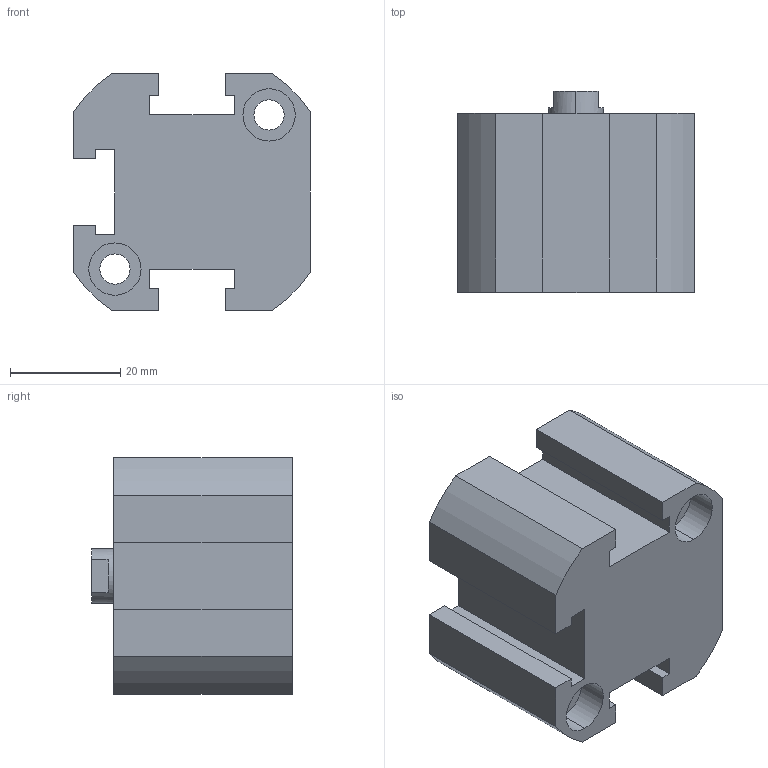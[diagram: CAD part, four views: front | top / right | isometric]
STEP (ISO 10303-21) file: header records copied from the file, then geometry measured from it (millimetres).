
FILE_DESCRIPTION (( 'STEP AP203' ), '1' );
FILE_NAME ('XC#2-25-10.STEP', '2016-05-23T08:07:18', ( '' ), ( '' ), 'SwSTEP 2.0', 'SolidWorks 2014', '' );
FILE_SCHEMA (( 'CONFIG_CONTROL_DESIGN' ));
Length unit declared in the file: millimetre
Products named in the file (1): XC#2-25-10
Bounding box: 43 x 36.5 x 43 mm (x, y, z)
Volume: 44003.2 mm3; surface area: 12401.4 mm2
Topology: 1 solids, 1 shells, 92 faces, 235 edges, 151 vertices
Faces by surface type: plane 44, cylinder 42, cone 6
Entity records: 2846 total; most frequent: DIRECTION 503, CARTESIAN_POINT 473, ORIENTED_EDGE 458, EDGE_CURVE 229, AXIS2_PLACEMENT_3D 181, VERTEX_POINT 151, LINE 141, VECTOR 141
